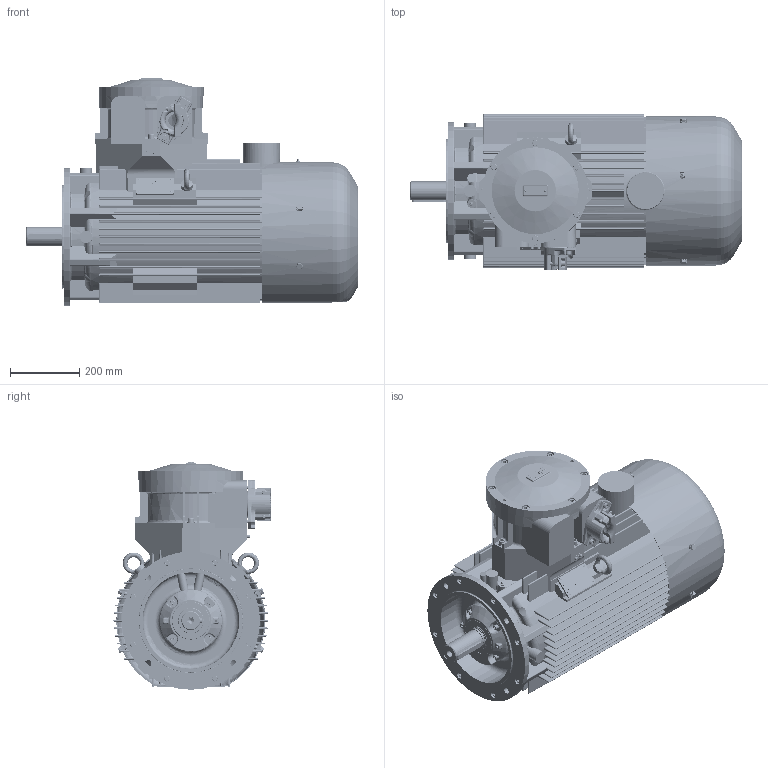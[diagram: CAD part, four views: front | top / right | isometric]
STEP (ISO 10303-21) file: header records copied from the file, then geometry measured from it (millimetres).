
FILE_DESCRIPTION(/* description */ ('Unknown'),/* implementation_level */ '2;1');
FILE_NAME(/* name */ 'cSTKe200L(2-8)-(IE2-3) - wykonwnie OUTSIDE !',/* time_stamp */ '2021-12-22T11:07:34+01:00',/* author */ ('Unknown'),/* organization */ ('Unknown'),/* preprocessor_version */ 'ST-DEVELOPER v16.7',/* originating_system */ 'DEX',/* authorisation */ $);
FILE_SCHEMA (('AUTOMOTIVE_DESIGN { 1 0 10303 214 3 1 1 }','AUTOMOTIVE_DESIGN {1 0 10303 214 3 1 1}'));
Products named in the file (1): cSTKe200L(2-8)-(IE2-3) - wykonwnie OUTSIDE !
Bounding box: 960.63 x 454.5 x 658.45 mm (x, y, z)
Volume: 27402263.1 mm3; surface area: 6272259.4 mm2
Topology: 166 solids, 167 shells, 7368 faces, 19197 edges, 12454 vertices
Faces by surface type: plane 4650, cylinder 1468, cone 436, torus 401, bspline 330, sphere 83
Full cylindrical faces by diameter (mm): 1.2 x6, 1.6 x2, 2.5 x6, 3 x6, 3.1 x4, 3.2 x2, 3.4 x6, 4.773 x2, 5 x3, 5.35 x2, 6 x6, 6.2 x3, 6.4 x2, 6.466 x4, 6.5 x2, 6.647 x4, 8 x14, 8.16 x32, 8.376 x2, 8.5 x4, 8.8 x1, 8.917 x3, 9 x4, 9.853 x14, 10 x69, 10.106 x8, 10.5 x4, 11 x24, 12 x32, 13 x10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
Entity records: 258267 total; most frequent: CARTESIAN_POINT 63164, ORIENTED_EDGE 36332, DIRECTION 34743, EDGE_CURVE 18166, VERTEX_POINT 12225, LINE 12117, VECTOR 12117, AXIS2_PLACEMENT_3D 11313
